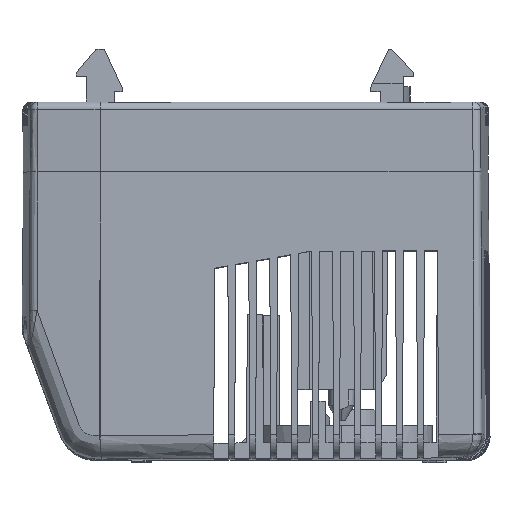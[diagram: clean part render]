
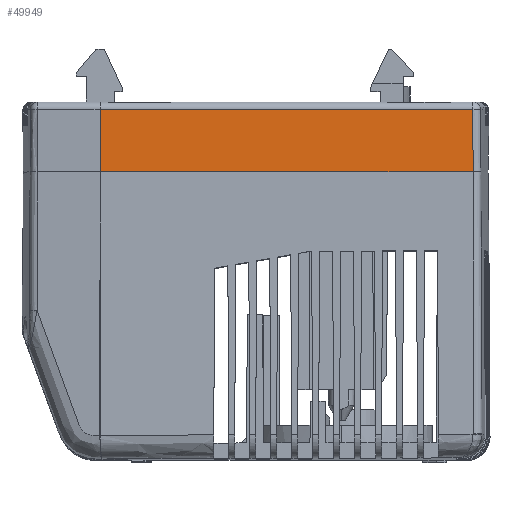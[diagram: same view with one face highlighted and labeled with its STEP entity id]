
A CAD part, top view. The second image highlights one B-rep face of the part: STEP entity #49949.
In plain terms, the highlighted planar face has unit normal (0, 0.004, 1).
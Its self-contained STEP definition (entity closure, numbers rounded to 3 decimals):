
#9395 = FACE_OUTER_BOUND ( 'NONE', #59342, .T. ) ;
#17813 = CARTESIAN_POINT ( 'NONE',  ( -19.956, 0., 18.5 ) ) ;
#21033 = PLANE ( 'NONE',  #22394 ) ;
#21035 = CARTESIAN_POINT ( 'NONE',  ( -20., 0., 18.5 ) ) ;
#21039 = DIRECTION ( 'NONE',  ( 0., 0.004, 1. ) ) ;
#21040 = DIRECTION ( 'NONE',  ( 0., -1., 0.004 ) ) ;
#22394 = AXIS2_PLACEMENT_3D ( 'NONE', #21035, #21039, #21040 ) ;
#23033 = VERTEX_POINT ( 'NONE', #17813 ) ;
#23812 = VERTEX_POINT ( 'NONE', #30710 ) ;
#30710 = CARTESIAN_POINT ( 'NONE',  ( 27.969, 0., 18.5 ) ) ;
#31728 = ORIENTED_EDGE ( 'NONE', *, *, #52468, .T. ) ;
#31733 = ORIENTED_EDGE ( 'NONE', *, *, #52460, .T. ) ;
#31739 = ORIENTED_EDGE ( 'NONE', *, *, #52455, .T. ) ;
#31883 = ORIENTED_EDGE ( 'NONE', *, *, #52464, .T. ) ;
#32991 = VERTEX_POINT ( 'NONE', #40799 ) ;
#32997 = VERTEX_POINT ( 'NONE', #40796 ) ;
#37338 = LINE ( 'NONE', #43047, #37339 ) ;
#37339 = VECTOR ( 'NONE', #43048, 1000. ) ;
#37340 = LINE ( 'NONE', #43043, #37342 ) ;
#37342 = VECTOR ( 'NONE', #43044, 1000. ) ;
#37343 = LINE ( 'NONE', #43057, #37344 ) ;
#37344 = VECTOR ( 'NONE', #43058, 1000. ) ;
#37878 = B_SPLINE_CURVE_WITH_KNOTS ( 'NONE', 3,
 ( #43027, #43026, #43038, #43039, #43040, #43041, #43042 ),
 .UNSPECIFIED., .F., .F.,
 ( 4, 3, 4 ),
 ( 0., 0.004, 0.008 ),
 .UNSPECIFIED. ) ;
#40796 = CARTESIAN_POINT ( 'NONE',  ( 27.938, 8.004, 18.465 ) ) ;
#40799 = CARTESIAN_POINT ( 'NONE',  ( -19.955, 8.004, 18.465 ) ) ;
#43026 = CARTESIAN_POINT ( 'NONE',  ( 27.963, 1.499, 18.493 ) ) ;
#43027 = CARTESIAN_POINT ( 'NONE',  ( 27.969, 0., 18.5 ) ) ;
#43038 = CARTESIAN_POINT ( 'NONE',  ( 27.957, 2.998, 18.487 ) ) ;
#43039 = CARTESIAN_POINT ( 'NONE',  ( 27.951, 4.497, 18.48 ) ) ;
#43040 = CARTESIAN_POINT ( 'NONE',  ( 27.947, 5.666, 18.475 ) ) ;
#43041 = CARTESIAN_POINT ( 'NONE',  ( 27.942, 6.835, 18.47 ) ) ;
#43042 = CARTESIAN_POINT ( 'NONE',  ( 27.938, 8.004, 18.465 ) ) ;
#43043 = CARTESIAN_POINT ( 'NONE',  ( -19.956, 0., 18.5 ) ) ;
#43044 = DIRECTION ( 'NONE',  ( 0., -1., 0.004 ) ) ;
#43047 = CARTESIAN_POINT ( 'NONE',  ( -20., 0., 18.5 ) ) ;
#43048 = DIRECTION ( 'NONE',  ( 1., 0., 0. ) ) ;
#43057 = CARTESIAN_POINT ( 'NONE',  ( -19.998, 8.004, 18.465 ) ) ;
#43058 = DIRECTION ( 'NONE',  ( -1., 0., 0. ) ) ;
#49949 = ADVANCED_FACE ( 'NONE', ( #9395 ), #21033, .T. ) ;
#52455 = EDGE_CURVE ( 'NONE', #23812, #32997, #37878, .T. ) ;
#52460 = EDGE_CURVE ( 'NONE', #23033, #23812, #37338, .T. ) ;
#52464 = EDGE_CURVE ( 'NONE', #32991, #23033, #37340, .T. ) ;
#52468 = EDGE_CURVE ( 'NONE', #32997, #32991, #37343, .T. ) ;
#59342 = EDGE_LOOP ( 'NONE', ( #31728, #31883, #31733, #31739 ) ) ;
